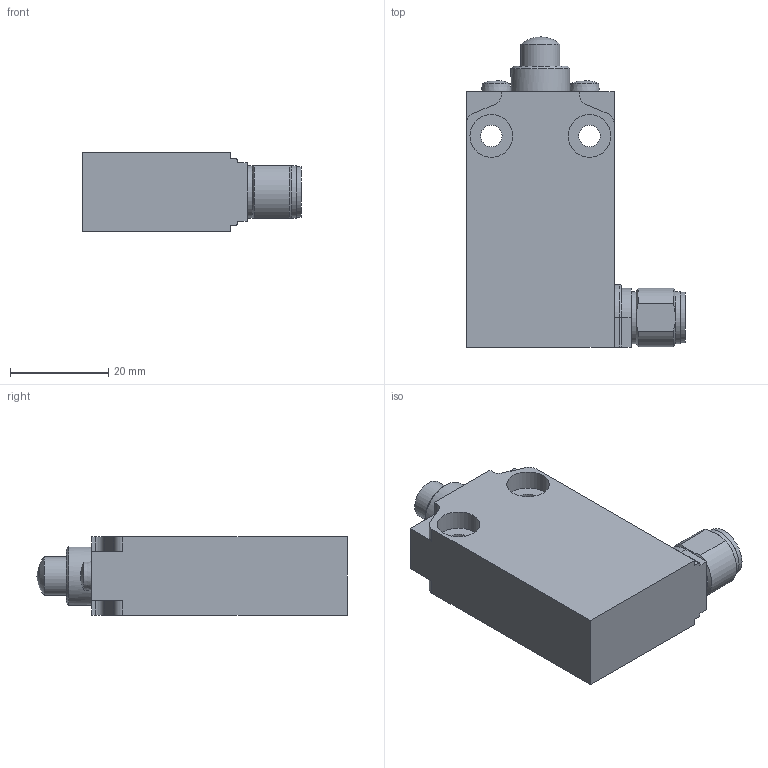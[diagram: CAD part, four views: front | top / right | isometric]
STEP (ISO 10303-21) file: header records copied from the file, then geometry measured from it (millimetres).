
FILE_DESCRIPTION(/* description */ (''),/* implementation_level */ '2;1');
FILE_NAME(/* name */ 'C:\Users\servizio.tecnico\Desktop\CADENAS\3D\EP1_STP\STP_EP1_G11M.stp',/* time_stamp */ '2017-09-04T10:58:28+02:00',/* author */ ('servizio.tecnico'),/* organization */ (''),/* preprocessor_version */ 'ST-DEVELOPER v16.1',/* originating_system */ 'Autodesk Inventor 2016',/* authorisation */ '');
FILE_SCHEMA (('AUTOMOTIVE_DESIGN { 1 0 10303 214 3 1 1 }'));
Length unit declared in the file: millimetre
Products named in the file (3): Product; EP1G11-M; BASE ASSI 
Assembly tree (2 placements, depth 3):
  BASE ASSI 
    EP1G11-M
      Product
Bounding box: 44.5 x 63.2 x 16 mm (x, y, z)
Volume: 25763.5 mm3; surface area: 8408.6 mm2
Topology: 3 solids, 3 shells, 102 faces, 254 edges, 163 vertices
Faces by surface type: plane 51, cylinder 34, cone 11, torus 3, sphere 3
Full cylindrical faces by diameter (mm): 4.4 x2, 7.95 x1, 8.05 x1, 8.7 x4, 10.3 x1, 10.6 x2, 12 x1
Entity records: 2986 total; most frequent: CARTESIAN_POINT 518, DIRECTION 514, ORIENTED_EDGE 450, EDGE_CURVE 225, AXIS2_PLACEMENT_3D 198, VERTEX_POINT 154, EDGE_LOOP 131, LINE 118
